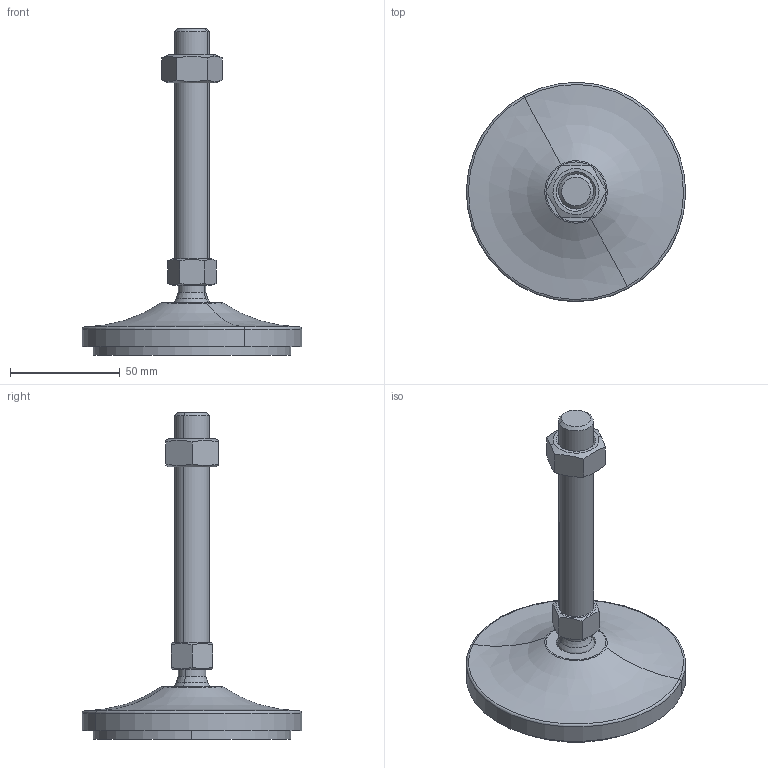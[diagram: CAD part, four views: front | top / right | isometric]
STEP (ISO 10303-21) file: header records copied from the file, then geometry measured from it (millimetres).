
FILE_DESCRIPTION(('CATIA V5 STEP Exchange'),'2;1');
FILE_NAME('C:\Users\ALI OZGUN\Desktop\alhan\saplama2\560101615AV.stp','2017-09-21T10:30:54+00:00',('none'),('none'),'CATIA Version 5 Release 21 GA (IN-10)','CATIA V5 STEP AP203','none');
FILE_SCHEMA(('CONFIG_CONTROL_DESIGN'));
Length unit declared in the file: millimetre
Products named in the file (1): 560101615AV
Bounding box: 99.97 x 99.97 x 149 mm (x, y, z)
Volume: 150092 mm3; surface area: 45398 mm2
Topology: 4 solids, 4 shells, 64 faces, 142 edges, 87 vertices
Faces by surface type: plane 22, cylinder 16, cone 16, torus 4, revolution 4, sphere 2
Entity records: 1936 total; most frequent: CARTESIAN_POINT 628, ORIENTED_EDGE 280, DIRECTION 197, EDGE_CURVE 140, AXIS2_PLACEMENT_3D 106, VERTEX_POINT 87, EDGE_LOOP 71, ADVANCED_FACE 64
